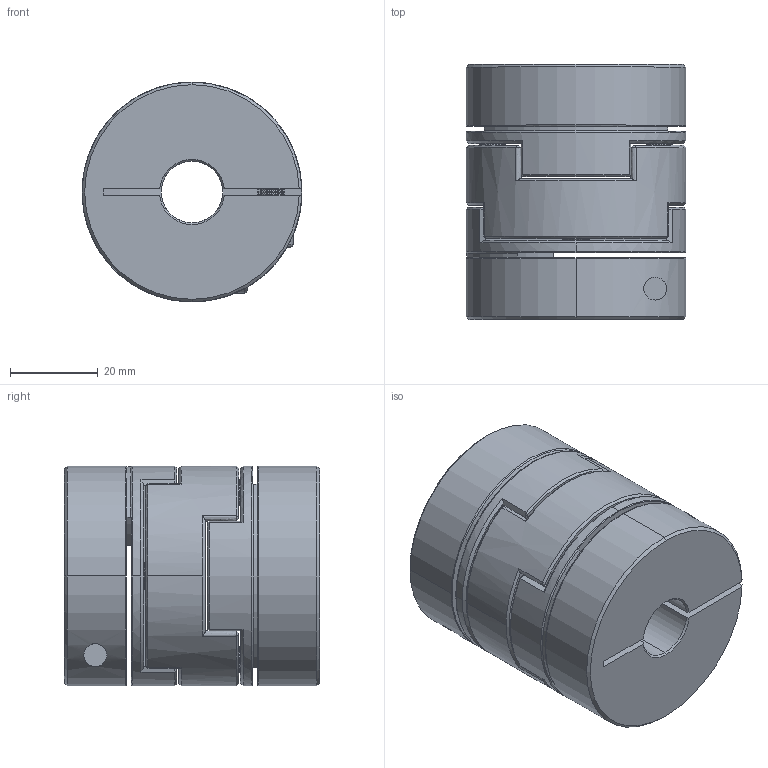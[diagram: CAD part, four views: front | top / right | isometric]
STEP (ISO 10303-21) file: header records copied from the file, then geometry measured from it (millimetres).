
FILE_DESCRIPTION (( 'STEP AP203' ), '1' );
FILE_NAME ('LZ-B-D50L58-14-20.STEP', '2021-10-29T08:06:44', ( '' ), ( '' ), 'SwSTEP 2.0', 'SolidWorks 2018', '' );
FILE_SCHEMA (( 'CONFIG_CONTROL_DESIGN' ));
Length unit declared in the file: millimetre
Products named in the file (1): LZ-B-D50L58-14-20
Bounding box: 50 x 58 x 50 mm (x, y, z)
Volume: 91587.5 mm3; surface area: 29976.3 mm2
Topology: 1 solids, 27 shells, 560 faces, 1364 edges, 810 vertices
Faces by surface type: cone 252, cylinder 160, plane 90, bspline 54, torus 4
Entity records: 17422 total; most frequent: CARTESIAN_POINT 4342, DIRECTION 2782, ORIENTED_EDGE 2720, EDGE_CURVE 1360, AXIS2_PLACEMENT_3D 1123, VERTEX_POINT 810, CIRCLE 616, EDGE_LOOP 594
